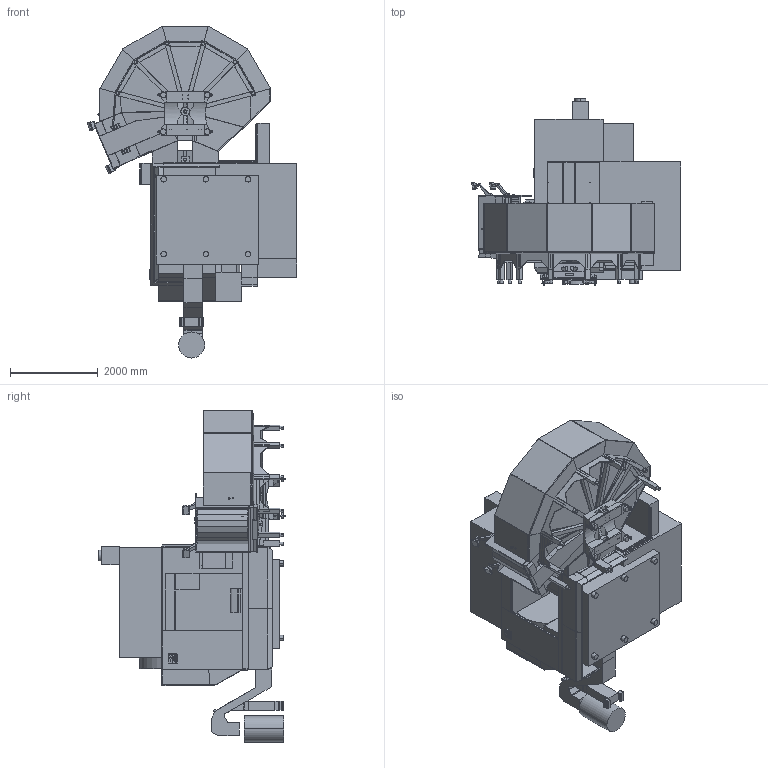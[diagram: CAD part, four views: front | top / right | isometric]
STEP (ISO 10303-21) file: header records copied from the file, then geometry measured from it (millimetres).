
FILE_DESCRIPTION (( 'STEP AP214' ), '1' );
FILE_NAME ('UMC-1250-PALLET POOL_STEP_1_2022.STEP', '2022-01-04T19:08:32', ( '' ), ( '' ), 'SwSTEP 2.0', 'SolidWorks 2021', '' );
FILE_SCHEMA (( 'AUTOMOTIVE_DESIGN' ));
Length unit declared in the file: inch
Products named in the file (10): PALLETS_UMC-1250_PP; WALLS_UMC-1250_PP; BASE _UMC-1250_PP; UMC-1250-PALLET POOL_STEP_1_2022; UMC-1250_XT_2021-03_PALLET READY_defeature; SADDLE_UMC-1250_PP; PALLET READY_defeature^UMC-1250_XT_2021-03; FLOOR_UMC-1250_PP; LOADING_STATION_UMC-1250_PP; RAM_UMC-1250_PP
Assembly tree (9 placements, depth 3):
  UMC-1250-PALLET POOL_STEP_1_2022
    LOADING_STATION_UMC-1250_PP
    WALLS_UMC-1250_PP
    FLOOR_UMC-1250_PP
    BASE _UMC-1250_PP
    PALLETS_UMC-1250_PP
    SADDLE_UMC-1250_PP
    RAM_UMC-1250_PP
    UMC-1250_XT_2021-03_PALLET READY_defeature
      PALLET READY_defeature^UMC-1250_XT_2021-03
Bounding box: 4770.48 x 4279.55 x 7571.82 mm (x, y, z)
Volume: 24330593202.3 mm3; surface area: 193843680.7 mm2
Topology: 24 solids, 36 shells, 7475 faces, 20404 edges, 13012 vertices
Faces by surface type: plane 4824, cylinder 1817, bspline 470, cone 254, torus 96, sphere 14
Entity records: 288755 total; most frequent: CARTESIAN_POINT 66793, ORIENTED_EDGE 40756, DIRECTION 36337, EDGE_CURVE 20378, VECTOR 14223, LINE 14223, VERTEX_POINT 13012, AXIS2_PLACEMENT_3D 11057
